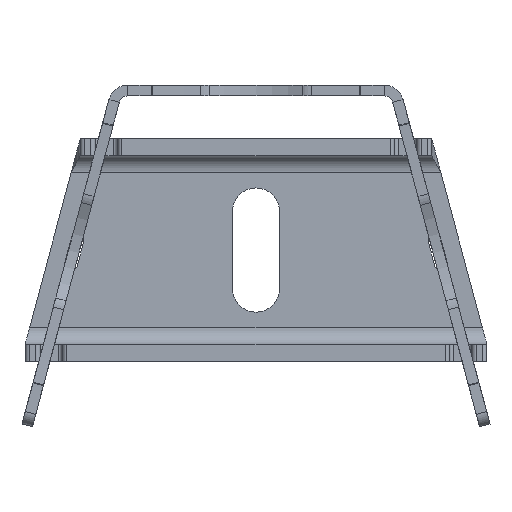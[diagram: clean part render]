
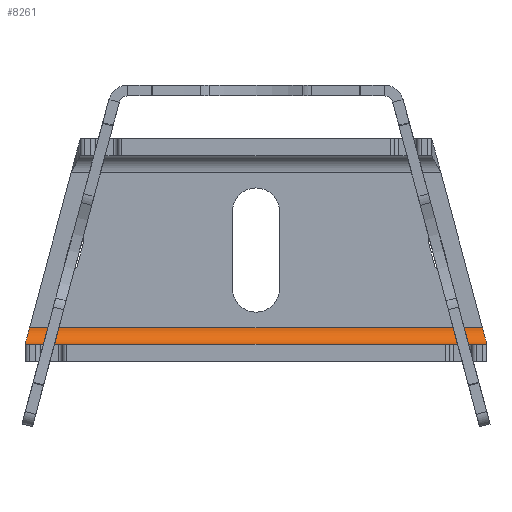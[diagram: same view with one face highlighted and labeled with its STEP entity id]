
A CAD part, front view. The second image highlights one B-rep face of the part: STEP entity #8261.
In plain terms, the highlighted cylindrical face has radius 3.9 mm (diameter 7.8 mm), a partial arc.
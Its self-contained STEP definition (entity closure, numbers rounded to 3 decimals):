
#113 = CARTESIAN_POINT ( 'NONE',  ( 18.1, 0., 52.866 ) ) ;
#134 = CARTESIAN_POINT ( 'NONE',  ( 18.1, 0., -52.866 ) ) ;
#199 = CARTESIAN_POINT ( 'NONE',  ( 18.1, 0., 55. ) ) ;
#200 = DIRECTION ( 'NONE',  ( 0., 0., -1. ) ) ;
#430 = VERTEX_POINT ( 'NONE', #113 ) ;
#490 = VERTEX_POINT ( 'NONE', #134 ) ;
#972 = EDGE_CURVE ( 'NONE', #430, #490, #1764, .T. ) ;
#1021 = EDGE_CURVE ( 'NONE', #3233, #9268, #1678, .T. ) ;
#1671 = VECTOR ( 'NONE', #4580, 1000. ) ;
#1678 = LINE ( 'NONE', #4416, #1671 ) ;
#1761 = VECTOR ( 'NONE', #200, 1000. ) ;
#1764 = LINE ( 'NONE', #199, #1761 ) ;
#1830 =( BOUNDED_CURVE ( )  B_SPLINE_CURVE ( 3, ( #6706, #6707, #6704, #6703 ),
 .UNSPECIFIED., .F., .T. ) 
 B_SPLINE_CURVE_WITH_KNOTS ( ( 4, 4 ),
 ( 4.712, 6.283 ),
 .UNSPECIFIED. ) 
 CURVE ( )  GEOMETRIC_REPRESENTATION_ITEM ( )  RATIONAL_B_SPLINE_CURVE ( ( 1., 0.805, 0.805, 1. ) ) 
 REPRESENTATION_ITEM ( '' )  );
#1871 =( BOUNDED_CURVE ( )  B_SPLINE_CURVE ( 3, ( #6714, #6725, #6711, #6710 ),
 .UNSPECIFIED., .F., .T. ) 
 B_SPLINE_CURVE_WITH_KNOTS ( ( 4, 4 ),
 ( 1.571, 3.142 ),
 .UNSPECIFIED. ) 
 CURVE ( )  GEOMETRIC_REPRESENTATION_ITEM ( )  RATIONAL_B_SPLINE_CURVE ( ( 1., 0.805, 0.805, 1. ) ) 
 REPRESENTATION_ITEM ( '' )  );
#2290 = EDGE_CURVE ( 'NONE', #430, #3233, #1871, .T. ) ;
#2292 = EDGE_CURVE ( 'NONE', #490, #9268, #1830, .T. ) ;
#2334 = ORIENTED_EDGE ( 'NONE', *, *, #2290, .F. ) ;
#2352 = ORIENTED_EDGE ( 'NONE', *, *, #1021, .F. ) ;
#2354 = ORIENTED_EDGE ( 'NONE', *, *, #2292, .T. ) ;
#2872 = EDGE_LOOP ( 'NONE', ( #2334, #4889, #2354, #2352 ) ) ;
#3233 = VERTEX_POINT ( 'NONE', #10320 ) ;
#4157 = AXIS2_PLACEMENT_3D ( 'NONE', #5831, #5826, #5828 ) ;
#4416 = CARTESIAN_POINT ( 'NONE',  ( 22., -3.9, 55. ) ) ;
#4580 = DIRECTION ( 'NONE',  ( 0., 0., -1. ) ) ;
#4889 = ORIENTED_EDGE ( 'NONE', *, *, #972, .T. ) ;
#5621 = FACE_OUTER_BOUND ( 'NONE', #2872, .T. ) ;
#5628 = CYLINDRICAL_SURFACE ( 'NONE', #4157, 3.9 ) ;
#5826 = DIRECTION ( 'NONE',  ( 0., 0., -1. ) ) ;
#5828 = DIRECTION ( 'NONE',  ( -1., 0., 0. ) ) ;
#5831 = CARTESIAN_POINT ( 'NONE',  ( 18.1, -3.9, 55. ) ) ;
#6312 = CARTESIAN_POINT ( 'NONE',  ( 22., -3.9, -53.911 ) ) ;
#6703 = CARTESIAN_POINT ( 'NONE',  ( 22., -3.9, -53.911 ) ) ;
#6704 = CARTESIAN_POINT ( 'NONE',  ( 22., -1.615, -53.911 ) ) ;
#6706 = CARTESIAN_POINT ( 'NONE',  ( 18.1, 0., -52.866 ) ) ;
#6707 = CARTESIAN_POINT ( 'NONE',  ( 20.385, 0., -53.478 ) ) ;
#6710 = CARTESIAN_POINT ( 'NONE',  ( 22., -3.9, 53.911 ) ) ;
#6711 = CARTESIAN_POINT ( 'NONE',  ( 22., -1.615, 53.911 ) ) ;
#6714 = CARTESIAN_POINT ( 'NONE',  ( 18.1, 0., 52.866 ) ) ;
#6725 = CARTESIAN_POINT ( 'NONE',  ( 20.385, 0., 53.478 ) ) ;
#8261 = ADVANCED_FACE ( 'NONE', ( #5621 ), #5628, .F. ) ;
#9268 = VERTEX_POINT ( 'NONE', #6312 ) ;
#10320 = CARTESIAN_POINT ( 'NONE',  ( 22., -3.9, 53.911 ) ) ;
